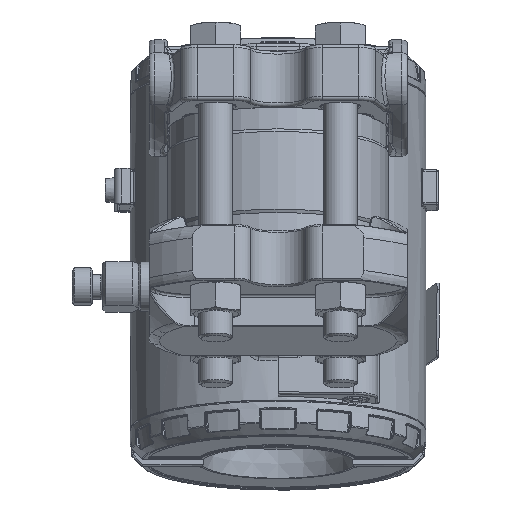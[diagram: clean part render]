
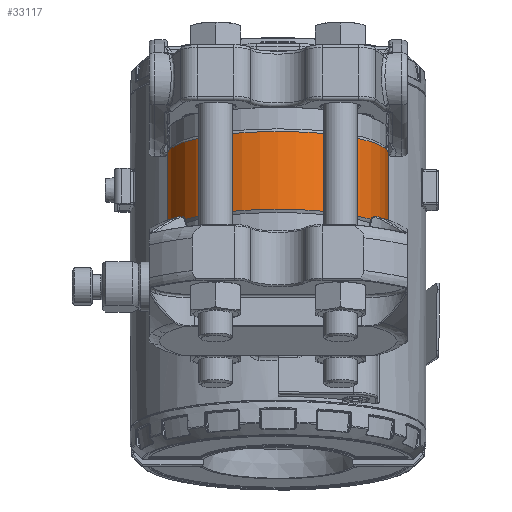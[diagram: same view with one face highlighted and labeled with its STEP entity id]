
A CAD part, left-side view. The second image highlights one B-rep face of the part: STEP entity #33117.
In plain terms, the highlighted cylindrical face has radius 31 mm (diameter 62 mm), a partial arc.
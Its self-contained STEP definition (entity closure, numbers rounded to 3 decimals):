
#1586=CYLINDRICAL_SURFACE('',#35833,31.);
#2526=FACE_OUTER_BOUND('',#4755,.T.);
#4755=EDGE_LOOP('',(#22066,#22067,#22068,#22069,#22070,#22071,#22072,#22073,
#22074,#22075));
#7090=LINE('',#50713,#8332);
#7091=LINE('',#50726,#8333);
#8332=VECTOR('',#40359,10.);
#8333=VECTOR('',#40360,10.);
#9571=CIRCLE('',#35813,31.);
#9574=CIRCLE('',#35816,31.);
#9580=CIRCLE('',#35826,31.);
#9581=CIRCLE('',#35827,31.);
#12243=B_SPLINE_CURVE_WITH_KNOTS('',3,(#50689,#50690,#50691,#50692,#50693),
 .UNSPECIFIED.,.F.,.F.,(4,1,4),(0.57,0.913,1.279),
 .UNSPECIFIED.);
#12245=B_SPLINE_CURVE_WITH_KNOTS('',3,(#50706,#50707,#50708,#50709,#50710,
#50711),.UNSPECIFIED.,.F.,.F.,(4,1,1,4),(0.,0.274,0.548,
0.708),.UNSPECIFIED.);
#12246=B_SPLINE_CURVE_WITH_KNOTS('',3,(#50714,#50715,#50716,#50717,#50718),
 .UNSPECIFIED.,.F.,.F.,(4,1,4),(0.57,0.913,1.279),
 .UNSPECIFIED.);
#12247=B_SPLINE_CURVE_WITH_KNOTS('',3,(#50720,#50721,#50722,#50723,#50724,
#50725),.UNSPECIFIED.,.F.,.F.,(4,1,1,4),(0.,0.274,
0.548,0.708),.UNSPECIFIED.);
#13495=VERTEX_POINT('',#50540);
#13497=VERTEX_POINT('',#50553);
#13498=VERTEX_POINT('',#50564);
#13510=VERTEX_POINT('',#50627);
#13511=VERTEX_POINT('',#50629);
#13512=VERTEX_POINT('',#50641);
#13514=VERTEX_POINT('',#50688);
#13517=VERTEX_POINT('',#50705);
#13518=VERTEX_POINT('',#50712);
#13519=VERTEX_POINT('',#50719);
#16698=EDGE_CURVE('',#13498,#13497,#9571,.T.);
#16702=EDGE_CURVE('',#13495,#13498,#9574,.T.);
#16714=EDGE_CURVE('',#13511,#13510,#9580,.T.);
#16717=EDGE_CURVE('',#13510,#13512,#9581,.T.);
#16721=EDGE_CURVE('',#13495,#13514,#12243,.T.);
#16725=EDGE_CURVE('',#13517,#13497,#12245,.T.);
#16726=EDGE_CURVE('',#13518,#13517,#7090,.T.);
#16727=EDGE_CURVE('',#13511,#13518,#12246,.T.);
#16728=EDGE_CURVE('',#13519,#13512,#12247,.T.);
#16729=EDGE_CURVE('',#13514,#13519,#7091,.T.);
#22066=ORIENTED_EDGE('',*,*,#16702,.T.);
#22067=ORIENTED_EDGE('',*,*,#16698,.T.);
#22068=ORIENTED_EDGE('',*,*,#16725,.F.);
#22069=ORIENTED_EDGE('',*,*,#16726,.F.);
#22070=ORIENTED_EDGE('',*,*,#16727,.F.);
#22071=ORIENTED_EDGE('',*,*,#16714,.T.);
#22072=ORIENTED_EDGE('',*,*,#16717,.T.);
#22073=ORIENTED_EDGE('',*,*,#16728,.F.);
#22074=ORIENTED_EDGE('',*,*,#16729,.F.);
#22075=ORIENTED_EDGE('',*,*,#16721,.F.);
#33117=ADVANCED_FACE('',(#2526),#1586,.T.);
#35813=AXIS2_PLACEMENT_3D('',#50565,#40313,#40314);
#35816=AXIS2_PLACEMENT_3D('',#50571,#40320,#40321);
#35826=AXIS2_PLACEMENT_3D('',#50630,#40342,#40343);
#35827=AXIS2_PLACEMENT_3D('',#50652,#40344,#40345);
#35833=AXIS2_PLACEMENT_3D('',#50704,#40357,#40358);
#40313=DIRECTION('center_axis',(0.,0.,1.));
#40314=DIRECTION('ref_axis',(-1.,0.,0.));
#40320=DIRECTION('center_axis',(0.,0.,1.));
#40321=DIRECTION('ref_axis',(-1.,0.,0.));
#40342=DIRECTION('center_axis',(0.,0.,-1.));
#40343=DIRECTION('ref_axis',(-1.,0.,0.));
#40344=DIRECTION('center_axis',(0.,0.,-1.));
#40345=DIRECTION('ref_axis',(-1.,0.,0.));
#40357=DIRECTION('center_axis',(0.,0.,1.));
#40358=DIRECTION('ref_axis',(-1.,0.,0.));
#40359=DIRECTION('',(0.,0.,-1.));
#40360=DIRECTION('',(0.,0.,1.));
#50540=CARTESIAN_POINT('',(29.591,9.241,-11.134));
#50553=CARTESIAN_POINT('',(29.591,-9.241,-11.134));
#50564=CARTESIAN_POINT('',(-31.,0.,-11.134));
#50565=CARTESIAN_POINT('Origin',(0.,0.,-11.134));
#50571=CARTESIAN_POINT('Origin',(0.,0.,-11.134));
#50627=CARTESIAN_POINT('',(-31.,0.,11.134));
#50629=CARTESIAN_POINT('',(29.591,-9.241,11.134));
#50630=CARTESIAN_POINT('Origin',(0.,0.,11.134));
#50641=CARTESIAN_POINT('',(29.591,9.241,11.134));
#50652=CARTESIAN_POINT('Origin',(0.,0.,11.134));
#50688=CARTESIAN_POINT('',(28.645,11.853,-5.));
#50689=CARTESIAN_POINT('Ctrl Pts',(29.591,9.241,-11.133));
#50690=CARTESIAN_POINT('Ctrl Pts',(29.348,10.019,-10.419));
#50691=CARTESIAN_POINT('Ctrl Pts',(28.86,11.344,-8.57));
#50692=CARTESIAN_POINT('Ctrl Pts',(28.645,11.853,-6.218));
#50693=CARTESIAN_POINT('Ctrl Pts',(28.645,11.853,-5.));
#50704=CARTESIAN_POINT('Origin',(0.,0.,0.));
#50705=CARTESIAN_POINT('',(28.645,-11.853,-5.));
#50706=CARTESIAN_POINT('Ctrl Pts',(28.645,-11.853,-5.));
#50707=CARTESIAN_POINT('Ctrl Pts',(28.645,-11.853,-5.913));
#50708=CARTESIAN_POINT('Ctrl Pts',(28.767,-11.563,-7.738));
#50709=CARTESIAN_POINT('Ctrl Pts',(29.174,-10.51,-9.79));
#50710=CARTESIAN_POINT('Ctrl Pts',(29.477,-9.605,-10.8));
#50711=CARTESIAN_POINT('Ctrl Pts',(29.59,-9.241,-11.134));
#50712=CARTESIAN_POINT('',(28.645,-11.853,5.));
#50713=CARTESIAN_POINT('',(28.645,-11.853,0.));
#50714=CARTESIAN_POINT('Ctrl Pts',(29.591,-9.241,11.133));
#50715=CARTESIAN_POINT('Ctrl Pts',(29.348,-10.019,10.419));
#50716=CARTESIAN_POINT('Ctrl Pts',(28.86,-11.344,8.57));
#50717=CARTESIAN_POINT('Ctrl Pts',(28.645,-11.853,6.218));
#50718=CARTESIAN_POINT('Ctrl Pts',(28.645,-11.853,5.));
#50719=CARTESIAN_POINT('',(28.645,11.853,5.));
#50720=CARTESIAN_POINT('Ctrl Pts',(28.645,11.853,5.));
#50721=CARTESIAN_POINT('Ctrl Pts',(28.645,11.853,5.913));
#50722=CARTESIAN_POINT('Ctrl Pts',(28.767,11.563,7.738));
#50723=CARTESIAN_POINT('Ctrl Pts',(29.174,10.51,9.79));
#50724=CARTESIAN_POINT('Ctrl Pts',(29.477,9.605,10.8));
#50725=CARTESIAN_POINT('Ctrl Pts',(29.59,9.241,11.134));
#50726=CARTESIAN_POINT('',(28.645,11.853,0.));
